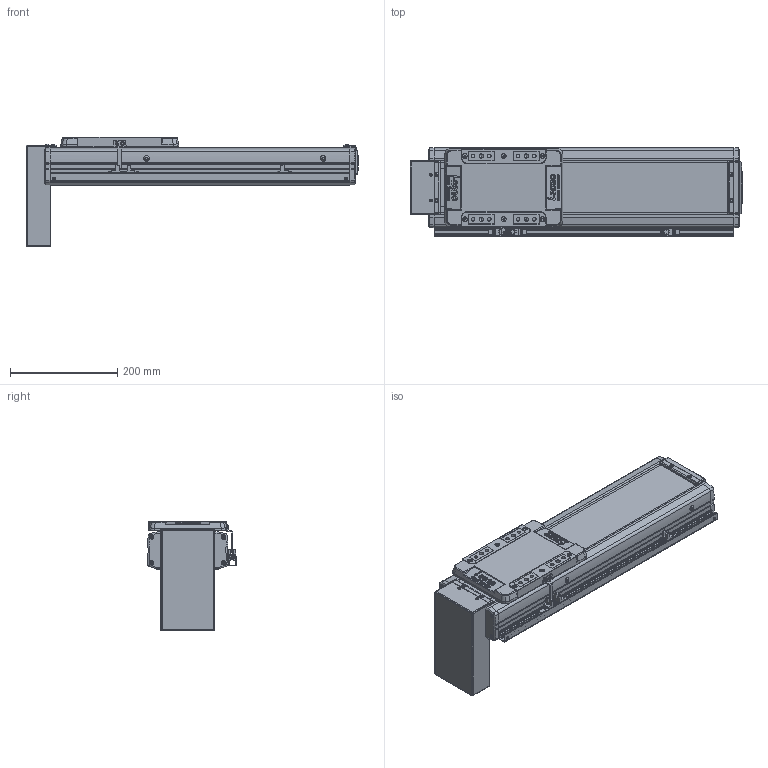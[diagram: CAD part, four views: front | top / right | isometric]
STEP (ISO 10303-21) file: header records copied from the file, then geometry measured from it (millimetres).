
FILE_DESCRIPTION(('STEP AP214'),'1');
FILE_NAME('Z:/Web/3D/SAN150/2013.04 (STP.)/SAN150ㅁㅁ-300PB+3SR.stp','2013-05-08T02:17:37',(' '),(' '),'Spatial InterOp 3D',' ',' ');
FILE_SCHEMA(('automotive_design'));
Length unit declared in the file: millimetre
Products named in the file (58): SLBL-SAN150; SLCV-SAN150; FHCS M4.0 x 8.0; BHCS M4.0 x 10.0; SFX-SAN150; RRCV-SAN150; FRBL-SAN150; Spacer; RN15; FRCV-SAN150; Screw 20; BASE-SAN150-000L ; SUS COVER; 스크루 : Round - M5.0 x 6.0; PB; 스크루 : Round - M3.0 x 6.0; M3.0 x 6.0; SRL-16x17-360L; SGD-SAN150; EE-SX674; SBK-SX674-352
Bounding box: 620 x 166 x 205.4 mm (x, y, z)
Volume: 4529941.3 mm3; surface area: 833088.3 mm2
Topology: 58 solids, 58 shells, 2574 faces, 6615 edges, 4260 vertices
Faces by surface type: plane 1388, cylinder 823, cone 250, sphere 80, bspline 21, torus 12
Entity records: 101690 total; most frequent: CARTESIAN_POINT 15913, DIRECTION 14000, ORIENTED_EDGE 13030, EDGE_CURVE 6515, AXIS2_PLACEMENT_3D 4950, VERTEX_POINT 4260, LINE 4100, VECTOR 4100
